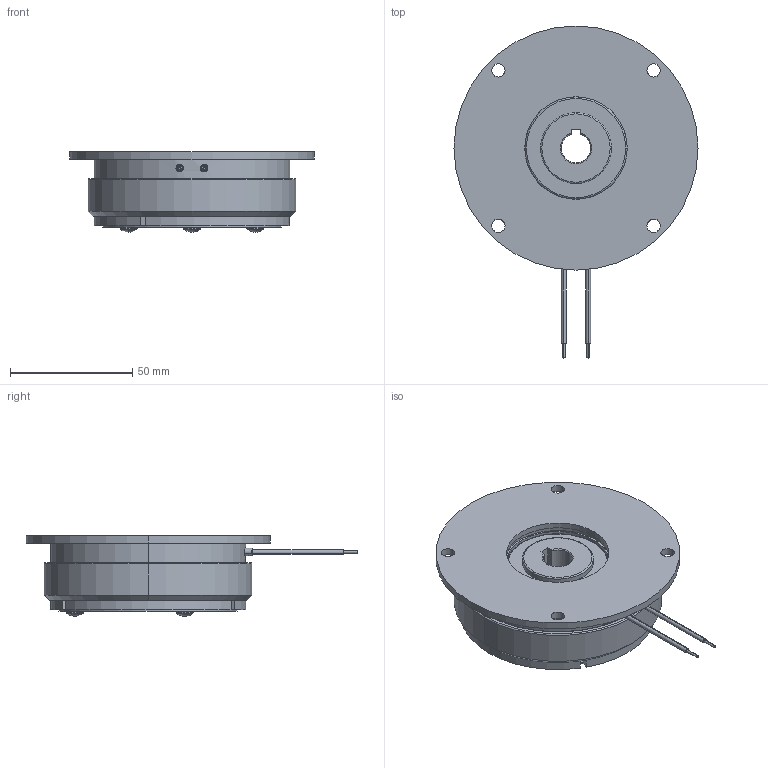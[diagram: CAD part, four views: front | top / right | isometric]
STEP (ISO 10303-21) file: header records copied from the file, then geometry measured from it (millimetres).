
FILE_DESCRIPTION (( 'STEP AP214' ), '1' );
FILE_NAME ('dr_bk_0703-110_mu.STEP', '2021-12-01T08:43:50', ( '' ), ( '' ), 'SwSTEP 2.0', 'SolidWorks 2019', '' );
FILE_SCHEMA (( 'AUTOMOTIVE_DESIGN' ));
Length unit declared in the file: millimetre
Products named in the file (8): 10068806_000_Einbaul„nge 2,75; 10068802_000; 10068804_000; 10069114_000; dr_bk_0703-110_mu; 10069130_000; 10068805_000; 10068807_000
Assembly tree (11 placements, depth 3):
  dr_bk_0703-110_mu
    10069114_000
    10069130_000
    10068802_000
      10068804_000
      10068807_000
      10068805_000  x3
      10068806_000_Einbaul„nge 2,75  x3
Bounding box: 100 x 136 x 33 mm (x, y, z)
Volume: 150884.9 mm3; surface area: 56935.1 mm2
Topology: 12 solids, 12 shells, 252 faces, 573 edges, 352 vertices
Faces by surface type: cylinder 126, cone 50, plane 46, torus 24, sphere 6
Entity records: 7613 total; most frequent: DIRECTION 1155, CARTESIAN_POINT 1154, ORIENTED_EDGE 926, AXIS2_PLACEMENT_3D 487, EDGE_CURVE 463, VERTEX_POINT 292, CIRCLE 270, EDGE_LOOP 259
